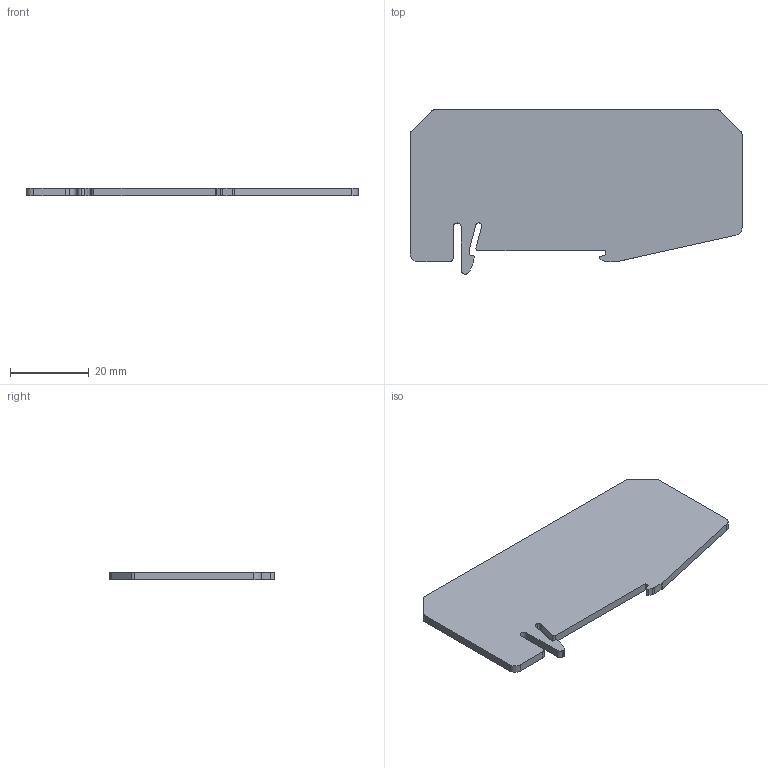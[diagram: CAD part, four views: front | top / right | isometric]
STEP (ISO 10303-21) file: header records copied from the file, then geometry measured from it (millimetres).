
FILE_DESCRIPTION(('OneSpaceDesigner STEP Export'),'2;1');
FILE_NAME('3206212_atp_qtc_twin_select.stp','2004-09-30T14:16:24',(''),(''),'OneSpace Designer STEP processor (Jan. 2003) for AP203(Solid Model)','OneSpace Designer 12.01C 26-Mar-2004 (C) CoCreate Software GmbH','');
FILE_SCHEMA(('CONFIG_CONTROL_DESIGN'));
Length unit declared in the file: millimetre
Products named in the file (2): 3206212_atp_qtc_twin_select
Assembly tree (1 placements, depth 2):
  3206212_atp_qtc_twin_select
    3206212_atp_qtc_twin_select
Bounding box: 84.4 x 41.75 x 2 mm (x, y, z)
Volume: 5983.1 mm3; surface area: 6538.1 mm2
Topology: 1 solids, 1 shells, 43 faces, 123 edges, 82 vertices
Faces by surface type: plane 23, cylinder 20
Entity records: 1594 total; most frequent: ORIENTED_EDGE 246, CARTESIAN_POINT 241, DIRECTION 235, EDGE_CURVE 123, VECTOR 83, LINE 83, VERTEX_POINT 82, AXIS2_PLACEMENT_3D 76
